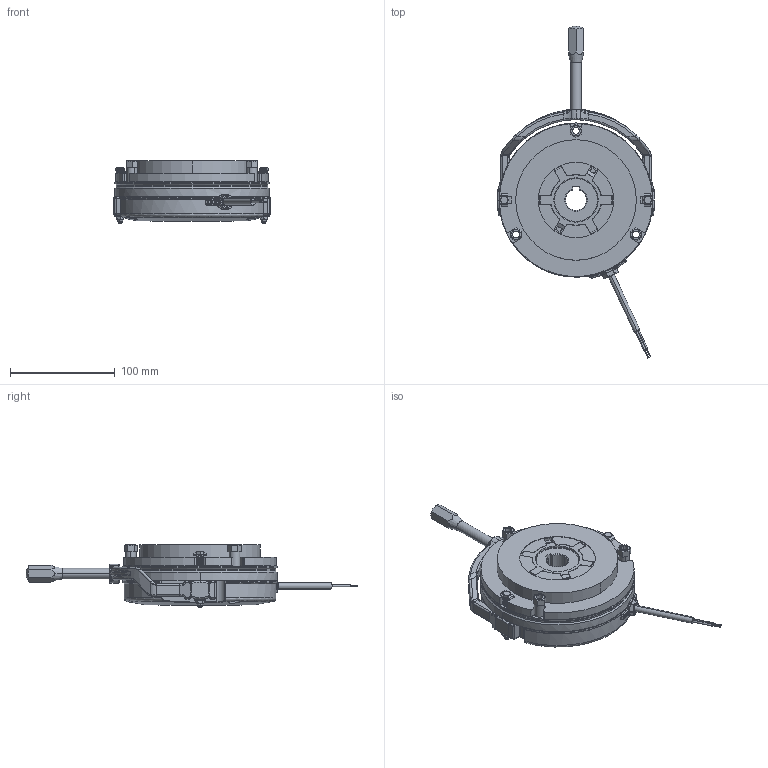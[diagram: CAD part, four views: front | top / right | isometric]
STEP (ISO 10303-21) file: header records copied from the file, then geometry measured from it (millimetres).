
FILE_DESCRIPTION (( 'STEP AP214' ), '1' );
FILE_NAME ('0538 mit HL.STEP', '2025-03-26T10:51:38', ( '' ), ( '' ), 'SwSTEP 2.0', 'SolidWorks 2022', '' );
FILE_SCHEMA (( 'AUTOMOTIVE_DESIGN' ));
Length unit declared in the file: millimetre
Products named in the file (7): 10068417_000; 10068422_000; 0538 mit HL; 10068415_000; 10068418_000; 10068414_000; 10068416_000
Assembly tree (8 placements, depth 2):
  0538 mit HL
    10068417_000
    10068415_000
    10068414_000  x3
    10068418_000
    10068416_000
    10068422_000
Bounding box: 149.5 x 316.65 x 59.45 mm (x, y, z)
Volume: 815147.1 mm3; surface area: 152086.9 mm2
Topology: 20 solids, 20 shells, 1208 faces, 2938 edges, 1774 vertices
Faces by surface type: cylinder 427, plane 348, bspline 202, cone 96, torus 84, sphere 51
Entity records: 57781 total; most frequent: CARTESIAN_POINT 21923, ORIENTED_EDGE 5666, DIRECTION 5218, EDGE_CURVE 2833, AXIS2_PLACEMENT_3D 2050, VERTEX_POINT 1721, EDGE_LOOP 1240, FACE_OUTER_BOUND 1174
